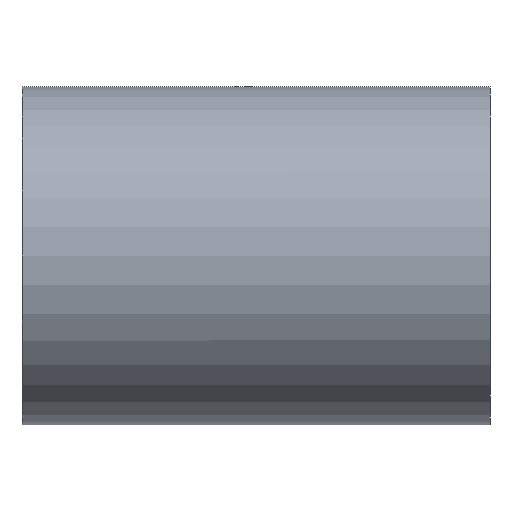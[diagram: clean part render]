
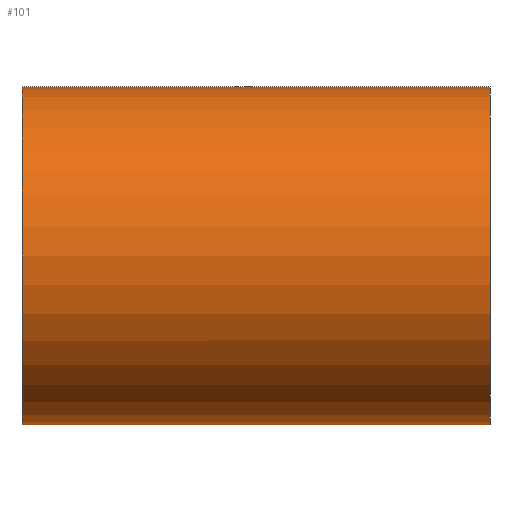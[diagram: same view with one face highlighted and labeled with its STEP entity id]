
A CAD part, front view. The second image highlights one B-rep face of the part: STEP entity #101.
In plain terms, the highlighted cylindrical face has radius 13 mm (diameter 26 mm), a full revolution.
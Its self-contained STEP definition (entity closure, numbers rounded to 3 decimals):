
#25=FACE_BOUND('',#48,.T.);
#33=FACE_OUTER_BOUND('',#47,.T.);
#47=EDGE_LOOP('',(#87));
#48=EDGE_LOOP('',(#88));
#57=CIRCLE('',#117,13.);
#58=CIRCLE('',#119,13.);
#65=VERTEX_POINT('',#174);
#66=VERTEX_POINT('',#177);
#73=EDGE_CURVE('',#65,#65,#57,.T.);
#74=EDGE_CURVE('',#66,#66,#58,.T.);
#87=ORIENTED_EDGE('',*,*,#73,.F.);
#88=ORIENTED_EDGE('',*,*,#74,.F.);
#94=CYLINDRICAL_SURFACE('',#118,13.);
#101=ADVANCED_FACE('',(#33,#25),#94,.T.);
#117=AXIS2_PLACEMENT_3D('',#175,#147,#148);
#118=AXIS2_PLACEMENT_3D('',#176,#149,#150);
#119=AXIS2_PLACEMENT_3D('',#178,#151,#152);
#147=DIRECTION('center_axis',(-1.,0.,0.));
#148=DIRECTION('ref_axis',(0.,-1.,0.));
#149=DIRECTION('center_axis',(1.,0.,0.));
#150=DIRECTION('ref_axis',(0.,-1.,0.));
#151=DIRECTION('center_axis',(1.,0.,0.));
#152=DIRECTION('ref_axis',(0.,-1.,0.));
#174=CARTESIAN_POINT('',(-18.,13.,0.));
#175=CARTESIAN_POINT('Origin',(-18.,0.,0.));
#176=CARTESIAN_POINT('Origin',(0.,0.,0.));
#177=CARTESIAN_POINT('',(18.,13.,0.));
#178=CARTESIAN_POINT('Origin',(18.,0.,0.));
